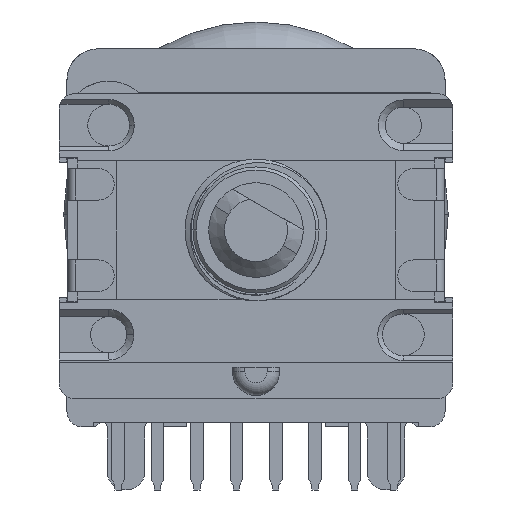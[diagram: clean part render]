
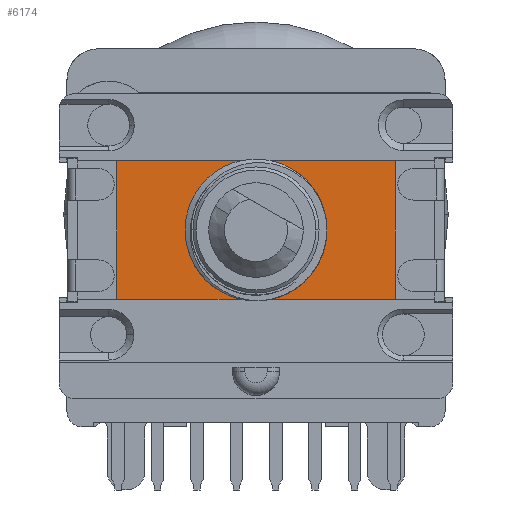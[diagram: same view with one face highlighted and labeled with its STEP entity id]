
A CAD part, front view. The second image highlights one B-rep face of the part: STEP entity #6174.
In plain terms, the highlighted planar face has unit normal (0, -1, 0).
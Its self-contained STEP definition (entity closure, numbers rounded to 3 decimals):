
#111 = DIRECTION ( 'NONE',  ( 0., 0., -1. ) ) ;
#226 = EDGE_CURVE ( 'NONE', #10690, #3643, #14176, .T. ) ;
#335 = DIRECTION ( 'NONE',  ( 1., 0., 0. ) ) ;
#646 = EDGE_CURVE ( 'NONE', #13797, #10353, #11428, .T. ) ;
#648 = CARTESIAN_POINT ( 'NONE',  ( -8.85, -6.4, 4.4 ) ) ;
#784 = EDGE_CURVE ( 'NONE', #3643, #16188, #18782, .T. ) ;
#851 = CARTESIAN_POINT ( 'NONE',  ( 1.605, -6.4, -3.664 ) ) ;
#850 = AXIS2_PLACEMENT_3D ( 'NONE', #14040, #5168, #15540 ) ;
#988 = VECTOR ( 'NONE', #3130, 1000. ) ;
#1242 = CARTESIAN_POINT ( 'NONE',  ( 4.325, -6.4, -0.602 ) ) ;
#1364 = CARTESIAN_POINT ( 'NONE',  ( 0., -6.4, 4.4 ) ) ;
#1541 = CIRCLE ( 'NONE', #850, 4. ) ;
#1809 = CIRCLE ( 'NONE', #8361, 3.25 ) ;
#2056 = ORIENTED_EDGE ( 'NONE', *, *, #15868, .F. ) ;
#2125 = DIRECTION ( 'NONE',  ( -1., 0., 0. ) ) ;
#2315 = CARTESIAN_POINT ( 'NONE',  ( 0., -6.4, 4. ) ) ;
#2451 = CIRCLE ( 'NONE', #10030, 4. ) ;
#2647 = CARTESIAN_POINT ( 'NONE',  ( 1.663, -6.4, -3.796 ) ) ;
#2712 = CARTESIAN_POINT ( 'NONE',  ( 4.397, -6.4, 0.325 ) ) ;
#2741 = FACE_BOUND ( 'NONE', #5443, .T. ) ;
#2851 = VECTOR ( 'NONE', #15191, 1000. ) ;
#2955 = VECTOR ( 'NONE', #7632, 1000. ) ;
#3130 = DIRECTION ( 'NONE',  ( 0., 0., -1. ) ) ;
#3156 = EDGE_CURVE ( 'NONE', #8715, #7814, #18093, .T. ) ;
#3643 = VERTEX_POINT ( 'NONE', #14894 ) ;
#3716 = CARTESIAN_POINT ( 'NONE',  ( 8.85, -6.4, 4.4 ) ) ;
#3822 = CARTESIAN_POINT ( 'NONE',  ( -2.815, -6.4, 1.625 ) ) ;
#3939 = VERTEX_POINT ( 'NONE', #10005 ) ;
#4199 = CARTESIAN_POINT ( 'NONE',  ( 4.275, -6.4, 1.242 ) ) ;
#4737 = VECTOR ( 'NONE', #10472, 1000. ) ;
#4801 = DIRECTION ( 'NONE',  ( 0., -1., 0. ) ) ;
#4857 = EDGE_CURVE ( 'NONE', #16188, #7814, #16244, .T. ) ;
#5031 = CARTESIAN_POINT ( 'NONE',  ( 8.85, -6.4, -4.4 ) ) ;
#5155 = DIRECTION ( 'NONE',  ( 0., -1., 0. ) ) ;
#5168 = DIRECTION ( 'NONE',  ( 0., 1., 0. ) ) ;
#5276 = EDGE_CURVE ( 'NONE', #10360, #18584, #16686, .T. ) ;
#5443 = EDGE_LOOP ( 'NONE', ( #15393, #12025 ) ) ;
#5450 = DIRECTION ( 'NONE',  ( 0., -1., 0. ) ) ;
#5625 = CARTESIAN_POINT ( 'NONE',  ( 2.752, -6.4, -3.197 ) ) ;
#5689 = CARTESIAN_POINT ( 'NONE',  ( 3.964, -6.4, 2.122 ) ) ;
#6053 = ORIENTED_EDGE ( 'NONE', *, *, #226, .F. ) ;
#6114 = CARTESIAN_POINT ( 'NONE',  ( 8.85, -6.4, 4.4 ) ) ;
#6174 = ADVANCED_FACE ( 'NONE', ( #2741, #10167 ), #17203, .T. ) ;
#6581 = VERTEX_POINT ( 'NONE', #9333 ) ;
#6584 = VERTEX_POINT ( 'NONE', #5031 ) ;
#6917 = LINE ( 'NONE', #6114, #2955 ) ;
#6930 = CARTESIAN_POINT ( 'NONE',  ( 2.815, -6.4, -1.625 ) ) ;
#7122 = ORIENTED_EDGE ( 'NONE', *, *, #18483, .T. ) ;
#7123 = LINE ( 'NONE', #16805, #14512 ) ;
#7136 = CARTESIAN_POINT ( 'NONE',  ( 3.413, -6.4, -2.551 ) ) ;
#7331 = ORIENTED_EDGE ( 'NONE', *, *, #4857, .F. ) ;
#7632 = DIRECTION ( 'NONE',  ( 0., 0., 1. ) ) ;
#7706 = EDGE_CURVE ( 'NONE', #3939, #6584, #7123, .T. ) ;
#7814 = VERTEX_POINT ( 'NONE', #11359 ) ;
#8361 = AXIS2_PLACEMENT_3D ( 'NONE', #13677, #4801, #15174 ) ;
#8543 = CARTESIAN_POINT ( 'NONE',  ( 3.81, -6.4, 2.394 ) ) ;
#8623 = CARTESIAN_POINT ( 'NONE',  ( 3.924, -6.4, -1.773 ) ) ;
#8715 = VERTEX_POINT ( 'NONE', #3716 ) ;
#8824 = VECTOR ( 'NONE', #2125, 1000. ) ;
#8956 = DIRECTION ( 'NONE',  ( 0., -1., 0. ) ) ;
#8987 = CARTESIAN_POINT ( 'NONE',  ( -8.85, -6.4, 4.4 ) ) ;
#9181 = DIRECTION ( 'NONE',  ( 0., 1., 0. ) ) ;
#9333 = CARTESIAN_POINT ( 'NONE',  ( -8.85, -6.4, 4.4 ) ) ;
#9452 = CARTESIAN_POINT ( 'NONE',  ( 1.605, -6.4, -3.664 ) ) ;
#9552 = DIRECTION ( 'NONE',  ( 1., 0., 0. ) ) ;
#10005 = CARTESIAN_POINT ( 'NONE',  ( -8.85, -6.4, -4.4 ) ) ;
#10030 = AXIS2_PLACEMENT_3D ( 'NONE', #17987, #9181, #335 ) ;
#10108 = CARTESIAN_POINT ( 'NONE',  ( 4.258, -6.4, -0.903 ) ) ;
#10167 = FACE_OUTER_BOUND ( 'NONE', #10279, .T. ) ;
#10279 = EDGE_LOOP ( 'NONE', ( #18366, #7122, #11891, #16566, #12659, #14993, #7331, #11798, #6053, #2056, #11875 ) ) ;
#10353 = VERTEX_POINT ( 'NONE', #6930 ) ;
#10360 = VERTEX_POINT ( 'NONE', #1364 ) ;
#10472 = DIRECTION ( 'NONE',  ( 0., 0., -1. ) ) ;
#10521 = CARTESIAN_POINT ( 'NONE',  ( 0., -6.4, -4.4 ) ) ;
#10690 = VERTEX_POINT ( 'NONE', #851 ) ;
#11102 = EDGE_CURVE ( 'NONE', #6584, #8715, #6917, .T. ) ;
#11359 = CARTESIAN_POINT ( 'NONE',  ( 0.943, -6.4, 4.4 ) ) ;
#11428 = CIRCLE ( 'NONE', #17568, 3.25 ) ;
#11559 = CARTESIAN_POINT ( 'NONE',  ( 1.955, -6.4, -3.685 ) ) ;
#11620 = CARTESIAN_POINT ( 'NONE',  ( 4.395, -6.4, 0.011 ) ) ;
#11798 = ORIENTED_EDGE ( 'NONE', *, *, #784, .F. ) ;
#11875 = ORIENTED_EDGE ( 'NONE', *, *, #15341, .F. ) ;
#11891 = ORIENTED_EDGE ( 'NONE', *, *, #15761, .T. ) ;
#12025 = ORIENTED_EDGE ( 'NONE', *, *, #646, .F. ) ;
#12631 = LINE ( 'NONE', #8987, #4737 ) ;
#12659 = ORIENTED_EDGE ( 'NONE', *, *, #11102, .T. ) ;
#12753 = LINE ( 'NONE', #648, #8824 ) ;
#13059 = EDGE_CURVE ( 'NONE', #10353, #13797, #1809, .T. ) ;
#13074 = CARTESIAN_POINT ( 'NONE',  ( 4.337, -6.4, 0.94 ) ) ;
#13677 = CARTESIAN_POINT ( 'NONE',  ( 0., -6.4, 0. ) ) ;
#13760 = CARTESIAN_POINT ( 'NONE',  ( -8.85, -6.4, 4.4 ) ) ;
#13797 = VERTEX_POINT ( 'NONE', #3822 ) ;
#14030 = CARTESIAN_POINT ( 'NONE',  ( 0., -6.4, 0. ) ) ;
#14040 = CARTESIAN_POINT ( 'NONE',  ( 0., -6.4, 0. ) ) ;
#14176 =( BOUNDED_CURVE ( )  B_SPLINE_CURVE ( 1, ( #9452, #16763 ),
 .UNSPECIFIED., .F., .F. ) 
 B_SPLINE_CURVE_WITH_KNOTS ( ( 2, 2 ),
 ( 0., 0. ),
 .UNSPECIFIED. ) 
 CURVE ( )  GEOMETRIC_REPRESENTATION_ITEM ( )  RATIONAL_B_SPLINE_CURVE ( ( 0.962, 0.962 ) ) 
 REPRESENTATION_ITEM ( '' )  );
#14313 = CARTESIAN_POINT ( 'NONE',  ( -8.85, -6.4, -4.4 ) ) ;
#14490 = CARTESIAN_POINT ( 'NONE',  ( 2.233, -6.4, -3.542 ) ) ;
#14512 = VECTOR ( 'NONE', #9552, 1000. ) ;
#14552 = CARTESIAN_POINT ( 'NONE',  ( 4.088, -6.4, 1.836 ) ) ;
#14746 = VERTEX_POINT ( 'NONE', #16617 ) ;
#14894 = CARTESIAN_POINT ( 'NONE',  ( 1.663, -6.4, -3.796 ) ) ;
#14993 = ORIENTED_EDGE ( 'NONE', *, *, #3156, .T. ) ;
#15056 = AXIS2_PLACEMENT_3D ( 'NONE', #14030, #5155, #15528 ) ;
#15174 = DIRECTION ( 'NONE',  ( 0., 0., -1. ) ) ;
#15191 = DIRECTION ( 'NONE',  ( -1., 0., 0. ) ) ;
#15341 = EDGE_CURVE ( 'NONE', #18584, #14746, #1541, .T. ) ;
#15393 = ORIENTED_EDGE ( 'NONE', *, *, #13059, .F. ) ;
#15528 = DIRECTION ( 'NONE',  ( 1., 0., 0. ) ) ;
#15540 = DIRECTION ( 'NONE',  ( 1., 0., 0. ) ) ;
#15761 = EDGE_CURVE ( 'NONE', #6581, #3939, #12631, .T. ) ;
#15793 = DIRECTION ( 'NONE',  ( 1., 0., 0. ) ) ;
#15868 = EDGE_CURVE ( 'NONE', #14746, #10690, #2451, .T. ) ;
#15965 = CARTESIAN_POINT ( 'NONE',  ( 2.987, -6.4, -2.998 ) ) ;
#16016 = CARTESIAN_POINT ( 'NONE',  ( 3.81, -6.4, 2.394 ) ) ;
#16188 = VERTEX_POINT ( 'NONE', #8543 ) ;
#16244 = CIRCLE ( 'NONE', #15056, 4.5 ) ;
#16566 = ORIENTED_EDGE ( 'NONE', *, *, #7706, .T. ) ;
#16617 = CARTESIAN_POINT ( 'NONE',  ( 4., -6.4, 0. ) ) ;
#16686 = LINE ( 'NONE', #10521, #988 ) ;
#16763 = CARTESIAN_POINT ( 'NONE',  ( 1.663, -6.4, -3.796 ) ) ;
#16805 = CARTESIAN_POINT ( 'NONE',  ( -8.85, -6.4, -4.4 ) ) ;
#17203 = PLANE ( 'NONE',  #18012 ) ;
#17452 = CARTESIAN_POINT ( 'NONE',  ( 3.605, -6.4, -2.301 ) ) ;
#17568 = AXIS2_PLACEMENT_3D ( 'NONE', #17772, #8956, #111 ) ;
#17772 = CARTESIAN_POINT ( 'NONE',  ( 0., -6.4, 0. ) ) ;
#17987 = CARTESIAN_POINT ( 'NONE',  ( 0., -6.4, 0. ) ) ;
#18012 = AXIS2_PLACEMENT_3D ( 'NONE', #14313, #5450, #15793 ) ;
#18093 = LINE ( 'NONE', #13760, #2851 ) ;
#18366 = ORIENTED_EDGE ( 'NONE', *, *, #5276, .F. ) ;
#18483 = EDGE_CURVE ( 'NONE', #10360, #6581, #12753, .T. ) ;
#18584 = VERTEX_POINT ( 'NONE', #2315 ) ;
#18782 = B_SPLINE_CURVE_WITH_KNOTS ( 'NONE', 3,
 ( #2647, #11559, #14490, #5625, #15965, #7136, #17452, #8623, #18931, #10108, #1242, #11620, #2712, #13074, #4199, #14552, #5689, #16016 ),
 .UNSPECIFIED., .F., .F.,
 ( 4, 2, 2, 2, 2, 2, 2, 2, 4 ),
 ( 0., 0.001, 0.002, 0.003, 0.004, 0.005, 0.006, 0.007, 0.007 ),
 .UNSPECIFIED. ) ;
#18931 = CARTESIAN_POINT ( 'NONE',  ( 4.056, -6.4, -1.494 ) ) ;
